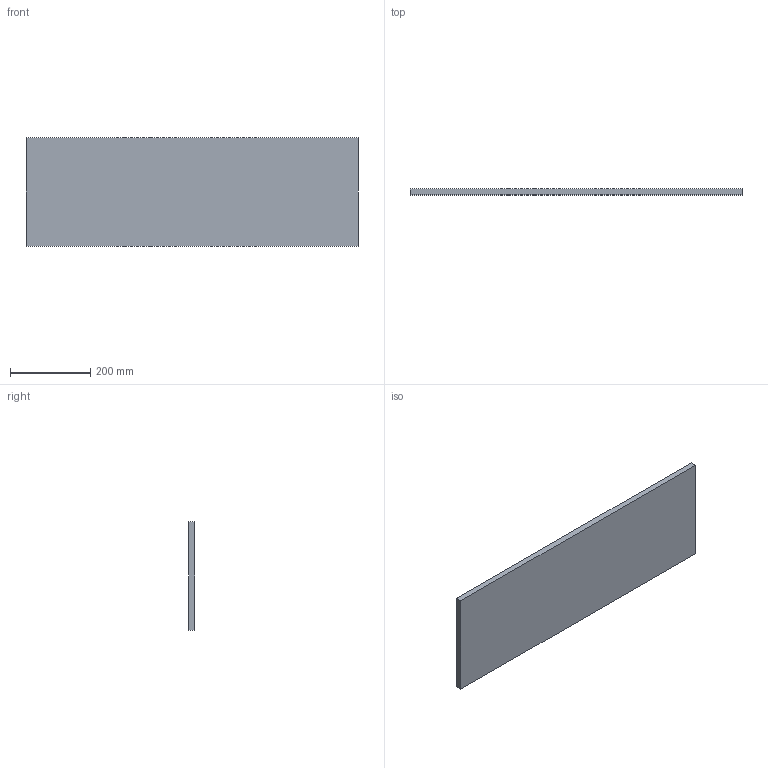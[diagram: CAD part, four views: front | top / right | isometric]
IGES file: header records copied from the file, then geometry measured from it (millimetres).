
Global section: file name: superior 1.igs; native system: NX V2312; preprocessor: SIEMENS PLM Software NX2312.5001; date: 20240809.190849; units: millimetre
Bounding box: 830 x 15 x 270.65 mm (x, y, z)
Surface area: 482292.1 mm2 (no closed solid volume)
Topology: 0 solids, 0 shells, 6 faces, 24 edges, 24 vertices
Faces by surface type: bspline 6
